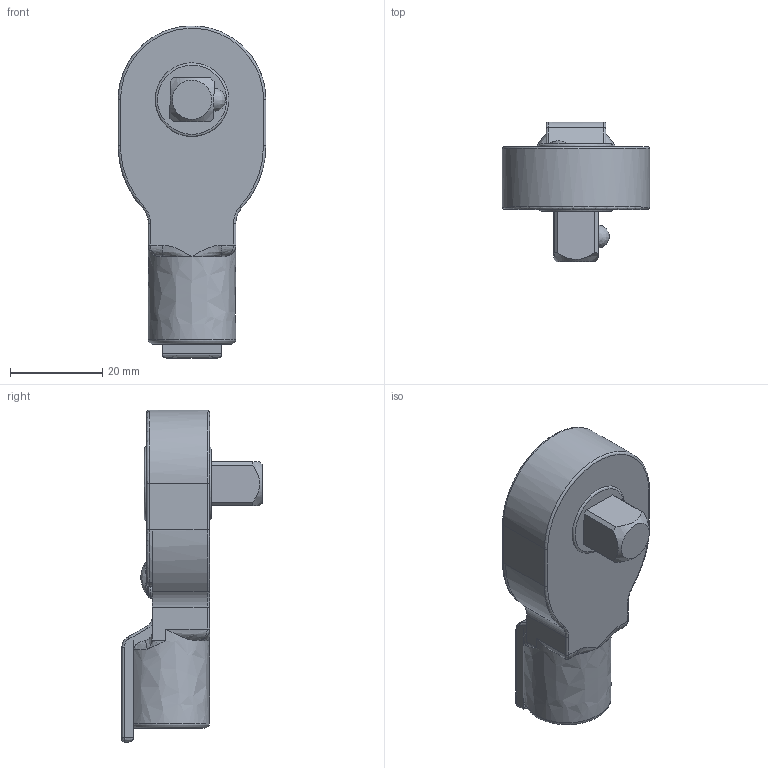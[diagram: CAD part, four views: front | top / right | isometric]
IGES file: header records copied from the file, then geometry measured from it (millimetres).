
Global section: file name: QH12D; native system: Autodesk Inventor 2016; preprocessor: unknown; author: Q600; date: 20151016.133303; units: millimetre
Bounding box: 32 x 30.4 x 71.99 mm (x, y, z)
Volume: 22743.2 mm3; surface area: 6858.6 mm2
Topology: 1 solids, 1 shells, 139 faces, 357 edges, 217 vertices
Faces by surface type: bspline 139
